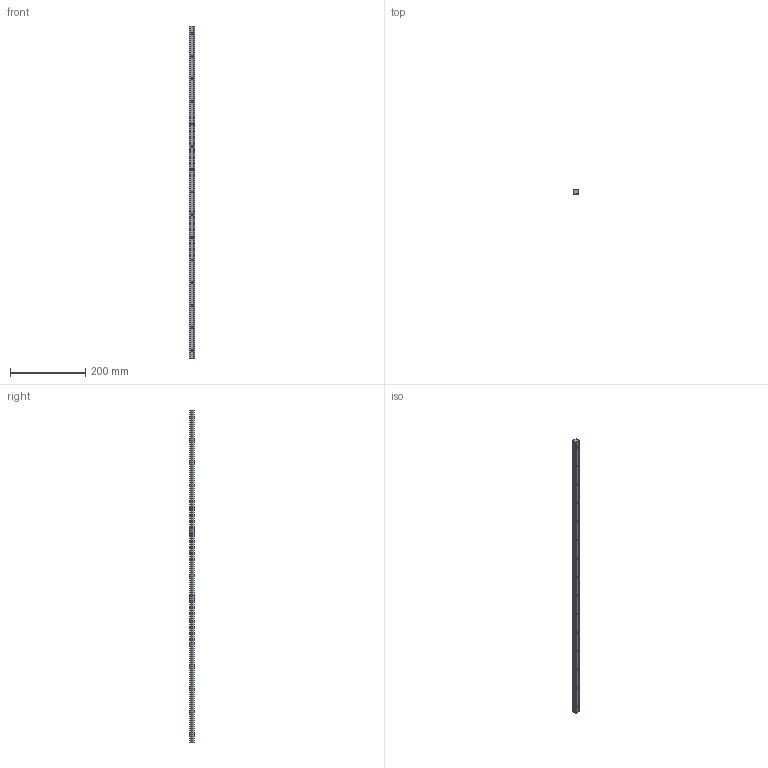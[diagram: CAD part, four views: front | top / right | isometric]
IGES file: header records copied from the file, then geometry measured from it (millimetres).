
Start section: SolidWorks IGES file using analytic representation for surfaces
Global section: file name: C:\Users\IanO\Desktop\L1016_v2\L1016.BL15_v2\L1016.BL15_v2_20190611_IGES\L1016.BL15-0880.igs; native system: SolidWorks 2017; preprocessor: SolidWorks 2017; author: IanO; date: 190612.122659; units: millimetre
Bounding box: 15 x 13 x 880 mm (x, y, z)
Surface area: 54038 mm2 (no closed solid volume)
Topology: 0 solids, 0 shells, 101 faces, 2312 edges, 2312 vertices
Faces by surface type: revolution 64, bspline 37
